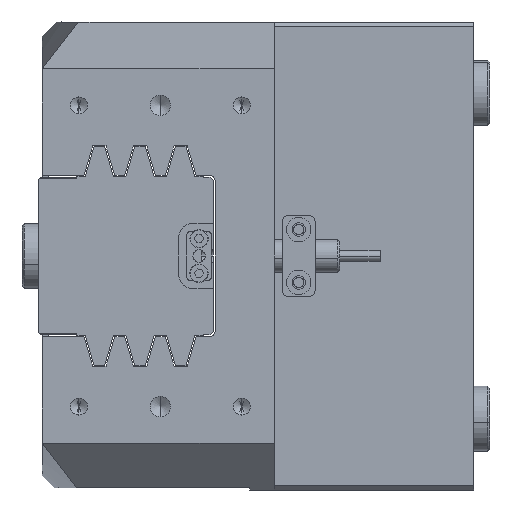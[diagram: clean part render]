
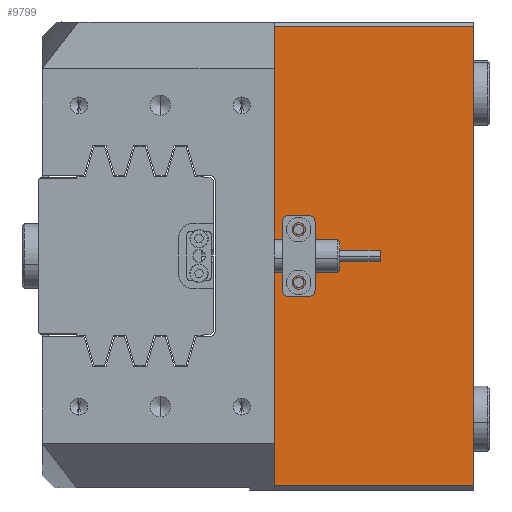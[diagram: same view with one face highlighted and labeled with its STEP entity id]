
A CAD part, left-side view. The second image highlights one B-rep face of the part: STEP entity #9799.
In plain terms, the highlighted planar face has unit normal (-1, 0, 0).
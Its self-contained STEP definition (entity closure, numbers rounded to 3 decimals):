
#31 = EDGE_CURVE ( 'NONE', #298, #11181, #24501, .T. ) ;
#298 = VERTEX_POINT ( 'NONE', #11056 ) ;
#371 = VERTEX_POINT ( 'NONE', #24470 ) ;
#2774 = PLANE ( 'NONE',  #20743 ) ;
#3232 = ORIENTED_EDGE ( 'NONE', *, *, #25521, .F. ) ;
#3527 = DIRECTION ( 'NONE',  ( -1., 0., 0. ) ) ;
#4056 = VERTEX_POINT ( 'NONE', #4195 ) ;
#4089 = DIRECTION ( 'NONE',  ( 0., 1., 0. ) ) ;
#4119 = VECTOR ( 'NONE', #22809, 1000. ) ;
#4195 = CARTESIAN_POINT ( 'NONE',  ( -93., -20.5, 7.75 ) ) ;
#4408 = CARTESIAN_POINT ( 'NONE',  ( -93., -20.5, -5.25 ) ) ;
#4418 = DIRECTION ( 'NONE',  ( 0., 0., -1. ) ) ;
#4819 = VECTOR ( 'NONE', #4418, 1000. ) ;
#5085 = DIRECTION ( 'NONE',  ( -1., 0., 0. ) ) ;
#6238 = VECTOR ( 'NONE', #18383, 1000. ) ;
#6314 = CARTESIAN_POINT ( 'NONE',  ( -93., -63.5, 56.5 ) ) ;
#6643 = CIRCLE ( 'NONE', #16086, 1.25 ) ;
#6718 = EDGE_CURVE ( 'NONE', #23121, #14112, #6643, .T. ) ;
#6941 = CARTESIAN_POINT ( 'NONE',  ( -93., -14.5, -56.5 ) ) ;
#7168 = EDGE_CURVE ( 'NONE', #14112, #23121, #10276, .T. ) ;
#7187 = CARTESIAN_POINT ( 'NONE',  ( -93., -20.5, 6.5 ) ) ;
#7927 = VERTEX_POINT ( 'NONE', #6941 ) ;
#8394 = EDGE_CURVE ( 'NONE', #22328, #4056, #11620, .T. ) ;
#8741 = ORIENTED_EDGE ( 'NONE', *, *, #31, .F. ) ;
#9331 = EDGE_LOOP ( 'NONE', ( #14467, #17257, #8741, #14755 ) ) ;
#9611 = EDGE_CURVE ( 'NONE', #7927, #11181, #27142, .T. ) ;
#9799 = ADVANCED_FACE ( 'NONE', ( #24161, #23768, #21657 ), #2774, .F. ) ;
#10251 = CARTESIAN_POINT ( 'NONE',  ( -93., -20.5, 5.25 ) ) ;
#10276 = CIRCLE ( 'NONE', #26034, 1.25 ) ;
#11056 = CARTESIAN_POINT ( 'NONE',  ( -93., -63.5, 56.5 ) ) ;
#11126 = LINE ( 'NONE', #26096, #4819 ) ;
#11181 = VERTEX_POINT ( 'NONE', #26754 ) ;
#11281 = DIRECTION ( 'NONE',  ( -1., 0., 0. ) ) ;
#11620 = CIRCLE ( 'NONE', #27389, 1.25 ) ;
#11785 = ORIENTED_EDGE ( 'NONE', *, *, #6718, .F. ) ;
#12022 = ORIENTED_EDGE ( 'NONE', *, *, #8394, .F. ) ;
#12654 = DIRECTION ( 'NONE',  ( 0., 0., 1. ) ) ;
#13164 = EDGE_LOOP ( 'NONE', ( #3232, #12022 ) ) ;
#13411 = DIRECTION ( 'NONE',  ( -1., 0., 0. ) ) ;
#13666 = DIRECTION ( 'NONE',  ( 0., 0., 1. ) ) ;
#14112 = VERTEX_POINT ( 'NONE', #4408 ) ;
#14467 = ORIENTED_EDGE ( 'NONE', *, *, #17599, .T. ) ;
#14755 = ORIENTED_EDGE ( 'NONE', *, *, #21484, .T. ) ;
#15143 = DIRECTION ( 'NONE',  ( 1., 0., 0. ) ) ;
#16086 = AXIS2_PLACEMENT_3D ( 'NONE', #22177, #11281, #26378 ) ;
#16509 = EDGE_LOOP ( 'NONE', ( #18448, #11785 ) ) ;
#17257 = ORIENTED_EDGE ( 'NONE', *, *, #9611, .T. ) ;
#17401 = CARTESIAN_POINT ( 'NONE',  ( -93., -63.5, 57.5 ) ) ;
#17599 = EDGE_CURVE ( 'NONE', #371, #7927, #11126, .T. ) ;
#18383 = DIRECTION ( 'NONE',  ( 0., -1., 0. ) ) ;
#18448 = ORIENTED_EDGE ( 'NONE', *, *, #7168, .F. ) ;
#19132 = LINE ( 'NONE', #6314, #24608 ) ;
#20743 = AXIS2_PLACEMENT_3D ( 'NONE', #17401, #15143, #24304 ) ;
#21484 = EDGE_CURVE ( 'NONE', #298, #371, #19132, .T. ) ;
#21647 = AXIS2_PLACEMENT_3D ( 'NONE', #7187, #13411, #22016 ) ;
#21657 = FACE_OUTER_BOUND ( 'NONE', #9331, .T. ) ;
#22016 = DIRECTION ( 'NONE',  ( 0., 0., 1. ) ) ;
#22177 = CARTESIAN_POINT ( 'NONE',  ( -93., -20.5, -6.5 ) ) ;
#22328 = VERTEX_POINT ( 'NONE', #10251 ) ;
#22809 = DIRECTION ( 'NONE',  ( 0., 0., -1. ) ) ;
#23121 = VERTEX_POINT ( 'NONE', #26997 ) ;
#23768 = FACE_BOUND ( 'NONE', #16509, .T. ) ;
#24161 = FACE_BOUND ( 'NONE', #13164, .T. ) ;
#24304 = DIRECTION ( 'NONE',  ( 0., 1., 0. ) ) ;
#24384 = CARTESIAN_POINT ( 'NONE',  ( -93., -20.5, 6.5 ) ) ;
#24470 = CARTESIAN_POINT ( 'NONE',  ( -93., -14.5, 56.5 ) ) ;
#24501 = LINE ( 'NONE', #24778, #4119 ) ;
#24608 = VECTOR ( 'NONE', #4089, 1000. ) ;
#24609 = CARTESIAN_POINT ( 'NONE',  ( -93., -63.5, -56.5 ) ) ;
#24778 = CARTESIAN_POINT ( 'NONE',  ( -93., -63.5, 57.5 ) ) ;
#25233 = CIRCLE ( 'NONE', #21647, 1.25 ) ;
#25521 = EDGE_CURVE ( 'NONE', #4056, #22328, #25233, .T. ) ;
#26034 = AXIS2_PLACEMENT_3D ( 'NONE', #27602, #3527, #12654 ) ;
#26096 = CARTESIAN_POINT ( 'NONE',  ( -93., -14.5, 57.5 ) ) ;
#26378 = DIRECTION ( 'NONE',  ( 0., 0., 1. ) ) ;
#26754 = CARTESIAN_POINT ( 'NONE',  ( -93., -63.5, -56.5 ) ) ;
#26997 = CARTESIAN_POINT ( 'NONE',  ( -93., -20.5, -7.75 ) ) ;
#27142 = LINE ( 'NONE', #24609, #6238 ) ;
#27389 = AXIS2_PLACEMENT_3D ( 'NONE', #24384, #5085, #13666 ) ;
#27602 = CARTESIAN_POINT ( 'NONE',  ( -93., -20.5, -6.5 ) ) ;
